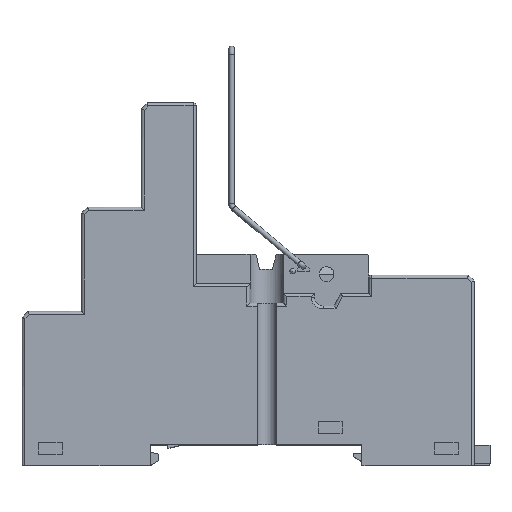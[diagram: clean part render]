
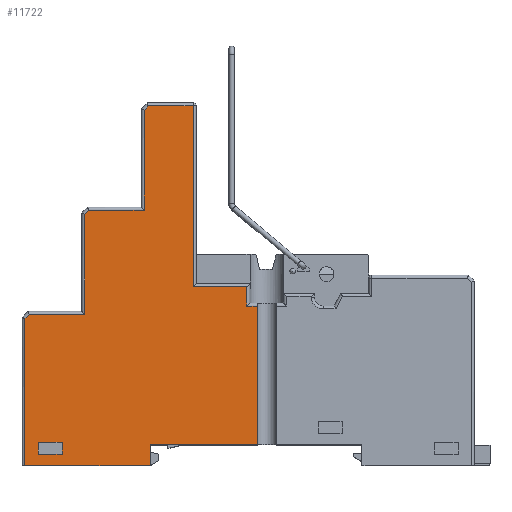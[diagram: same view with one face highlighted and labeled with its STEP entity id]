
A CAD part, top view. The second image highlights one B-rep face of the part: STEP entity #11722.
In plain terms, the highlighted planar face has unit normal (0, 0, 1).
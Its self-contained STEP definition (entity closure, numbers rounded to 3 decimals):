
#143=FACE_BOUND('',#1422,.T.);
#719=FACE_OUTER_BOUND('',#1421,.T.);
#1421=EDGE_LOOP('',(#8897,#8898,#8899,#8900,#8901,#8902,#8903,#8904,#8905,
#8906,#8907,#8908,#8909,#8910,#8911,#8912,#8913));
#1422=EDGE_LOOP('',(#8914,#8915,#8916,#8917));
#2166=LINE('',#16881,#3638);
#2195=LINE('',#16943,#3667);
#2387=LINE('',#17364,#3859);
#2388=LINE('',#17368,#3860);
#2390=LINE('',#17377,#3862);
#2392=LINE('',#17388,#3864);
#2395=LINE('',#17394,#3867);
#2396=LINE('',#17397,#3868);
#2399=LINE('',#17403,#3871);
#2401=LINE('',#17408,#3873);
#2403=LINE('',#17412,#3875);
#2405=LINE('',#17421,#3877);
#2407=LINE('',#17427,#3879);
#2408=LINE('',#17432,#3880);
#2411=LINE('',#17438,#3883);
#2414=LINE('',#17447,#3886);
#2617=LINE('',#17905,#4089);
#2618=LINE('',#17908,#4090);
#2619=LINE('',#17910,#4091);
#2620=LINE('',#17912,#4092);
#2621=LINE('',#17913,#4093);
#3638=VECTOR('',#13604,3.5);
#3667=VECTOR('',#13643,18.);
#3859=VECTOR('',#13965,7.543);
#3860=VECTOR('',#13968,9.293);
#3862=VECTOR('',#13976,9.293);
#3864=VECTOR('',#13986,24.693);
#3867=VECTOR('',#13993,1.);
#3868=VECTOR('',#13996,16.793);
#3871=VECTOR('',#14003,1.);
#3873=VECTOR('',#14007,16.793);
#3875=VECTOR('',#14013,1.);
#3877=VECTOR('',#14021,1.75);
#3879=VECTOR('',#14027,3.2);
#3880=VECTOR('',#14032,30.4);
#3883=VECTOR('',#14039,9.);
#3886=VECTOR('',#14050,21.);
#4089=VECTOR('',#14407,23.3);
#4090=VECTOR('',#14408,2.);
#4091=VECTOR('',#14409,4.);
#4092=VECTOR('',#14410,2.);
#4093=VECTOR('',#14411,4.);
#5093=VERTEX_POINT('',#16878);
#5094=VERTEX_POINT('',#16880);
#5122=VERTEX_POINT('',#16941);
#5283=VERTEX_POINT('',#17357);
#5286=VERTEX_POINT('',#17362);
#5287=VERTEX_POINT('',#17366);
#5288=VERTEX_POINT('',#17367);
#5291=VERTEX_POINT('',#17375);
#5292=VERTEX_POINT('',#17376);
#5296=VERTEX_POINT('',#17385);
#5297=VERTEX_POINT('',#17387);
#5299=VERTEX_POINT('',#17396);
#5302=VERTEX_POINT('',#17407);
#5303=VERTEX_POINT('',#17414);
#5306=VERTEX_POINT('',#17419);
#5308=VERTEX_POINT('',#17425);
#5310=VERTEX_POINT('',#17431);
#5492=VERTEX_POINT('',#17906);
#5493=VERTEX_POINT('',#17907);
#5494=VERTEX_POINT('',#17909);
#5495=VERTEX_POINT('',#17911);
#6268=EDGE_CURVE('',#5093,#5094,#2166,.T.);
#6301=EDGE_CURVE('',#5122,#5093,#2195,.T.);
#6508=EDGE_CURVE('',#5286,#5283,#2387,.T.);
#6509=EDGE_CURVE('',#5287,#5288,#2388,.T.);
#6513=EDGE_CURVE('',#5291,#5292,#2390,.T.);
#6518=EDGE_CURVE('',#5296,#5297,#2392,.T.);
#6522=EDGE_CURVE('',#5297,#5291,#2395,.T.);
#6523=EDGE_CURVE('',#5292,#5299,#2396,.T.);
#6527=EDGE_CURVE('',#5299,#5287,#2399,.T.);
#6529=EDGE_CURVE('',#5288,#5302,#2401,.T.);
#6532=EDGE_CURVE('',#5302,#5286,#2403,.T.);
#6536=EDGE_CURVE('',#5306,#5303,#2405,.T.);
#6539=EDGE_CURVE('',#5308,#5306,#2407,.T.);
#6541=EDGE_CURVE('',#5283,#5310,#2408,.T.);
#6545=EDGE_CURVE('',#5310,#5308,#2411,.T.);
#6550=EDGE_CURVE('',#5094,#5296,#2414,.T.);
#6783=EDGE_CURVE('',#5122,#5303,#2617,.T.);
#6784=EDGE_CURVE('',#5492,#5493,#2618,.T.);
#6785=EDGE_CURVE('',#5493,#5494,#2619,.T.);
#6786=EDGE_CURVE('',#5494,#5495,#2620,.T.);
#6787=EDGE_CURVE('',#5495,#5492,#2621,.T.);
#8897=ORIENTED_EDGE('',*,*,#6301,.F.);
#8898=ORIENTED_EDGE('',*,*,#6783,.T.);
#8899=ORIENTED_EDGE('',*,*,#6536,.F.);
#8900=ORIENTED_EDGE('',*,*,#6539,.F.);
#8901=ORIENTED_EDGE('',*,*,#6545,.F.);
#8902=ORIENTED_EDGE('',*,*,#6541,.F.);
#8903=ORIENTED_EDGE('',*,*,#6508,.F.);
#8904=ORIENTED_EDGE('',*,*,#6532,.F.);
#8905=ORIENTED_EDGE('',*,*,#6529,.F.);
#8906=ORIENTED_EDGE('',*,*,#6509,.F.);
#8907=ORIENTED_EDGE('',*,*,#6527,.F.);
#8908=ORIENTED_EDGE('',*,*,#6523,.F.);
#8909=ORIENTED_EDGE('',*,*,#6513,.F.);
#8910=ORIENTED_EDGE('',*,*,#6522,.F.);
#8911=ORIENTED_EDGE('',*,*,#6518,.F.);
#8912=ORIENTED_EDGE('',*,*,#6550,.F.);
#8913=ORIENTED_EDGE('',*,*,#6268,.F.);
#8914=ORIENTED_EDGE('',*,*,#6784,.T.);
#8915=ORIENTED_EDGE('',*,*,#6785,.T.);
#8916=ORIENTED_EDGE('',*,*,#6786,.T.);
#8917=ORIENTED_EDGE('',*,*,#6787,.T.);
#11100=PLANE('',#12524);
#11722=ADVANCED_FACE('',(#719,#143),#11100,.T.);
#12524=AXIS2_PLACEMENT_3D('',#17904,#14405,#14406);
#13604=DIRECTION('',(0.,-1.,0.));
#13643=DIRECTION('',(-1.,0.,0.));
#13965=DIRECTION('',(1.,0.,0.));
#13968=DIRECTION('',(1.,0.,0.));
#13976=DIRECTION('',(1.,0.,0.));
#13986=DIRECTION('',(0.,1.,0.));
#13993=DIRECTION('',(0.707,0.707,0.));
#13996=DIRECTION('',(0.,1.,0.));
#14003=DIRECTION('',(0.707,0.707,0.));
#14007=DIRECTION('',(0.,1.,0.));
#14013=DIRECTION('',(0.707,0.707,0.));
#14021=DIRECTION('',(1.,0.,0.));
#14027=DIRECTION('',(0.,-1.,0.));
#14032=DIRECTION('',(0.,-1.,0.));
#14039=DIRECTION('',(1.,0.,0.));
#14050=DIRECTION('',(-1.,0.,0.));
#14405=DIRECTION('center_axis',(0.,0.,1.));
#14406=DIRECTION('ref_axis',(1.,0.,0.));
#14407=DIRECTION('',(0.,1.,0.));
#14408=DIRECTION('',(0.,-1.,0.));
#14409=DIRECTION('',(-1.,0.,0.));
#14410=DIRECTION('',(0.,1.,0.));
#14411=DIRECTION('',(1.,0.,0.));
#16878=CARTESIAN_POINT('',(21.5,3.5,27.));
#16880=CARTESIAN_POINT('',(21.5,0.,27.));
#16881=CARTESIAN_POINT('',(21.5,0.,27.));
#16941=CARTESIAN_POINT('',(39.5,3.5,27.));
#16943=CARTESIAN_POINT('',(21.5,3.5,27.));
#17357=CARTESIAN_POINT('',(28.75,60.4,27.));
#17362=CARTESIAN_POINT('',(21.207,60.4,27.));
#17364=CARTESIAN_POINT('',(27.375,60.4,27.));
#17366=CARTESIAN_POINT('',(11.207,42.9,27.));
#17367=CARTESIAN_POINT('',(20.5,42.9,27.));
#17368=CARTESIAN_POINT('',(22.375,42.9,27.));
#17375=CARTESIAN_POINT('',(1.207,25.4,27.));
#17376=CARTESIAN_POINT('',(10.5,25.4,27.));
#17377=CARTESIAN_POINT('',(17.375,25.4,27.));
#17385=CARTESIAN_POINT('',(0.5,0.,27.));
#17387=CARTESIAN_POINT('',(0.5,24.693,27.));
#17388=CARTESIAN_POINT('',(0.5,16.5,27.));
#17394=CARTESIAN_POINT('',(11.316,35.509,27.));
#17396=CARTESIAN_POINT('',(10.5,42.193,27.));
#17397=CARTESIAN_POINT('',(10.5,29.45,27.));
#17403=CARTESIAN_POINT('',(14.441,46.134,27.));
#17407=CARTESIAN_POINT('',(20.5,59.693,27.));
#17408=CARTESIAN_POINT('',(20.5,38.2,27.));
#17412=CARTESIAN_POINT('',(17.566,56.759,27.));
#17414=CARTESIAN_POINT('',(39.5,26.8,27.));
#17419=CARTESIAN_POINT('',(37.75,26.8,27.));
#17421=CARTESIAN_POINT('',(37.425,26.8,27.));
#17425=CARTESIAN_POINT('',(37.75,30.,27.));
#17427=CARTESIAN_POINT('',(37.75,31.75,27.));
#17431=CARTESIAN_POINT('',(28.75,30.,27.));
#17432=CARTESIAN_POINT('',(28.75,34.25,27.));
#17438=CARTESIAN_POINT('',(36.,30.,27.));
#17447=CARTESIAN_POINT('',(0.,0.,27.));
#17904=CARTESIAN_POINT('Origin',(33.75,33.,27.));
#17905=CARTESIAN_POINT('',(39.5,34.25,27.));
#17906=CARTESIAN_POINT('',(6.75,3.9,27.));
#17907=CARTESIAN_POINT('',(6.75,1.9,27.));
#17908=CARTESIAN_POINT('',(6.75,18.45,27.));
#17909=CARTESIAN_POINT('',(2.75,1.9,27.));
#17910=CARTESIAN_POINT('',(20.25,1.9,27.));
#17911=CARTESIAN_POINT('',(2.75,3.9,27.));
#17912=CARTESIAN_POINT('',(2.75,17.45,27.));
#17913=CARTESIAN_POINT('',(18.25,3.9,27.));
